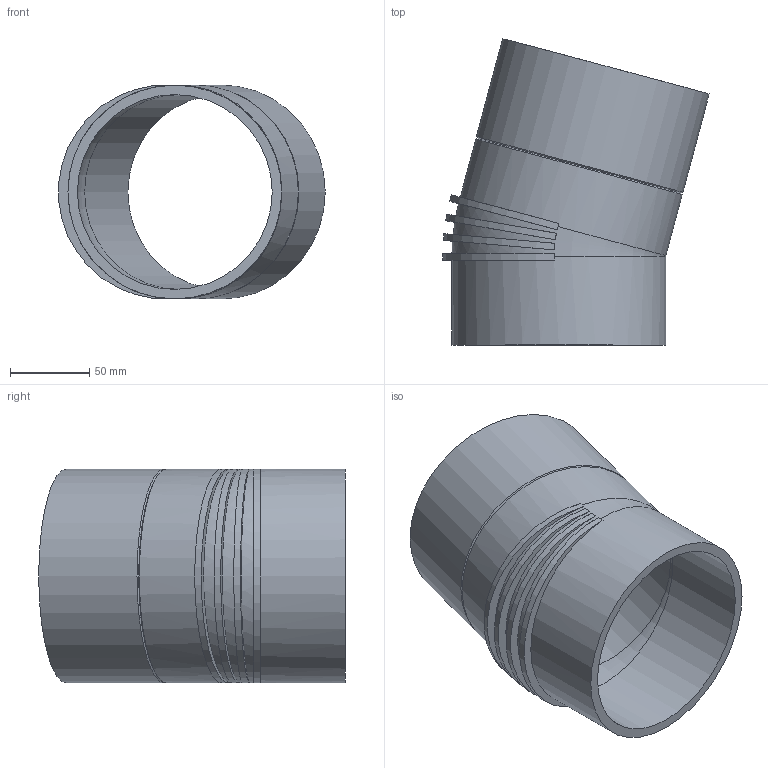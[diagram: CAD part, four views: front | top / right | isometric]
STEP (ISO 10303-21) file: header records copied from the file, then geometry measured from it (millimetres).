
FILE_DESCRIPTION(/* description */ (''),/* implementation_level */ '2;1');
FILE_NAME(/* name */ 'Z:\Geberit\Export\NewStep\Bogen_Ipart\stp\312150.stp',/* time_stamp */ '2014-04-03T16:41:56+02:00',/* author */ ('Marco'),/* organization */ (''),/* preprocessor_version */ 'ST-DEVELOPER v15.2',/* originating_system */ 'Autodesk Inventor 2014',/* authorisation */ '');
FILE_SCHEMA (('AUTOMOTIVE_DESIGN { 1 0 10303 214 3 1 1 }'));
Length unit declared in the file: millimetre
Products named in the file (1): 312150
Bounding box: 168.22 x 193.55 x 135 mm (x, y, z)
Volume: 450600.4 mm3; surface area: 158011.3 mm2
Topology: 1 solids, 1 shells, 23 faces, 60 edges, 39 vertices
Faces by surface type: plane 10, cylinder 9, cone 2, torus 2
Full cylindrical faces by diameter (mm): 123 x2, 135 x3
Entity records: 1056 total; most frequent: CARTESIAN_POINT 532, DIRECTION 94, ORIENTED_EDGE 90, EDGE_CURVE 45, AXIS2_PLACEMENT_3D 45, EDGE_LOOP 36, VERTEX_POINT 35, STYLED_ITEM 24
